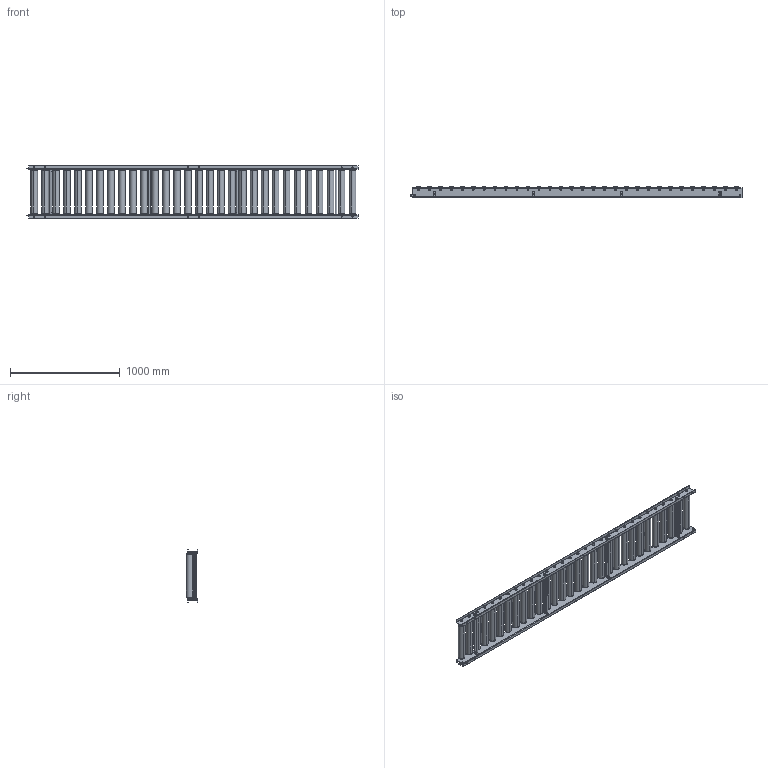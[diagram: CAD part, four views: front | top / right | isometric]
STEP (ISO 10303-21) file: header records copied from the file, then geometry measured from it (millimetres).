
FILE_DESCRIPTION (( 'STEP AP203' ), '1' );
FILE_NAME ('R-6032N.step', '2024-02-26T06:37:40', ( '' ), ( '' ), 'SwSTEP 2.0', 'SolidWorks 2023', '' );
FILE_SCHEMA (( 'CONFIG_CONTROL_DESIGN' ));
Length unit declared in the file: millimetre
Products named in the file (1): R-6032N
Bounding box: 3025 x 101.64 x 475 mm (x, y, z)
Volume: 37288640.5 mm3; surface area: 6422554.7 mm2
Topology: 104 solids, 104 shells, 1504 faces, 3412 edges, 2192 vertices
Faces by surface type: cylinder 686, plane 602, torus 120, cone 96
Entity records: 43995 total; most frequent: CARTESIAN_POINT 8453, DIRECTION 7994, ORIENTED_EDGE 6824, EDGE_CURVE 3412, AXIS2_PLACEMENT_3D 3333, VERTEX_POINT 2192, EDGE_LOOP 1908, CIRCLE 1828
